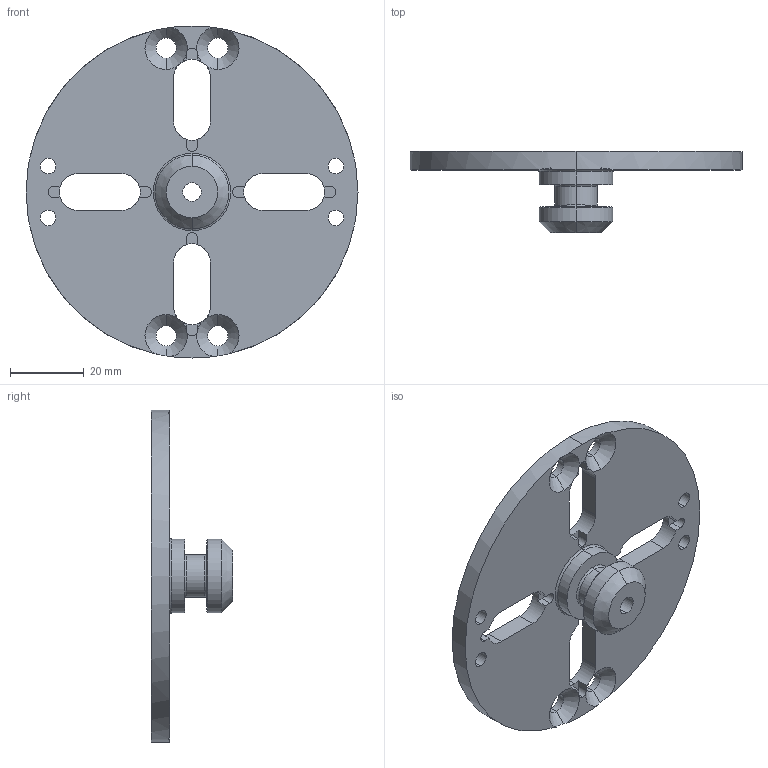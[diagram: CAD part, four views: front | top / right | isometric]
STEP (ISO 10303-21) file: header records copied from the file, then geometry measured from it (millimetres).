
FILE_DESCRIPTION (( 'STEP AP214' ), '1' );
FILE_NAME ('Bp90.STEP', '2019-12-17T02:45:20', ( '微软用户' ), ( '微软中国' ), 'SwSTEP 2.0', 'SolidWorks 2016', '' );
FILE_SCHEMA (( 'AUTOMOTIVE_DESIGN' ));
Length unit declared in the file: millimetre
Products named in the file (1): Bp90
Bounding box: 90 x 22 x 90 mm (x, y, z)
Volume: 29860.9 mm3; surface area: 15479.9 mm2
Topology: 1 solids, 1 shells, 107 faces, 306 edges, 198 vertices
Faces by surface type: cylinder 46, plane 43, cone 12, torus 6
Entity records: 3678 total; most frequent: CARTESIAN_POINT 700, DIRECTION 650, ORIENTED_EDGE 612, EDGE_CURVE 306, AXIS2_PLACEMENT_3D 256, VERTEX_POINT 198, CIRCLE 148, VECTOR 138
